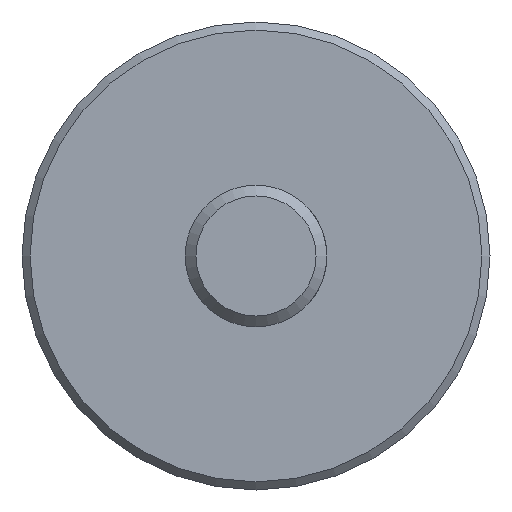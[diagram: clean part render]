
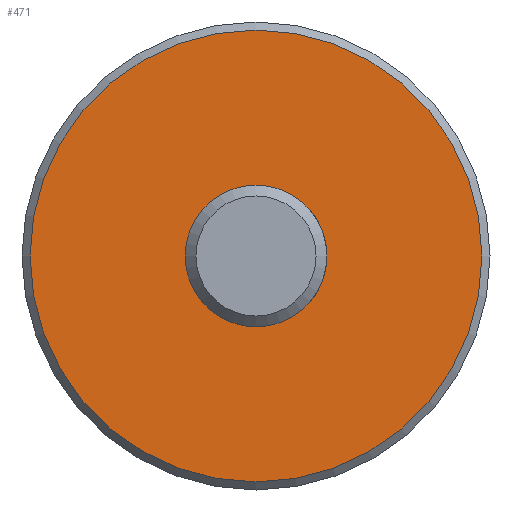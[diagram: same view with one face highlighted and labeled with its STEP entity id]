
A CAD part, front view. The second image highlights one B-rep face of the part: STEP entity #471.
In plain terms, the highlighted planar face has unit normal (0, -1, 0).
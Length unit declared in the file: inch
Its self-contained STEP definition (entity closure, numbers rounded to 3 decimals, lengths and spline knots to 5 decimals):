
#4 = FACE_OUTER_BOUND ( 'NONE', #532, .T. ) ;
#24 = DIRECTION ( 'NONE',  ( 0., 0., 1. ) ) ;
#52 = EDGE_CURVE ( 'NONE', #197, #197, #249, .T. ) ;
#62 = DIRECTION ( 'NONE',  ( 0., 1., 0. ) ) ;
#64 = CARTESIAN_POINT ( 'NONE',  ( 0., 3.28, 1.255 ) ) ;
#131 = AXIS2_PLACEMENT_3D ( 'NONE', #246, #165, #24 ) ;
#149 = FACE_BOUND ( 'NONE', #393, .T. ) ;
#154 = DIRECTION ( 'NONE',  ( 0., 1., 0. ) ) ;
#165 = DIRECTION ( 'NONE',  ( 0., 1., 0. ) ) ;
#197 = VERTEX_POINT ( 'NONE', #64 ) ;
#203 = AXIS2_PLACEMENT_3D ( 'NONE', #323, #62, #234 ) ;
#204 = CARTESIAN_POINT ( 'NONE',  ( 0., 3.28, 0. ) ) ;
#234 = DIRECTION ( 'NONE',  ( 0., 0., 1. ) ) ;
#246 = CARTESIAN_POINT ( 'NONE',  ( 0., 3.28, 0. ) ) ;
#249 = CIRCLE ( 'NONE', #131, 1.255 ) ;
#282 = ORIENTED_EDGE ( 'NONE', *, *, #52, .F. ) ;
#293 = CARTESIAN_POINT ( 'NONE',  ( 0., 3.28, 0.3937 ) ) ;
#323 = CARTESIAN_POINT ( 'NONE',  ( 0.3937, 3.28, 0. ) ) ;
#329 = PLANE ( 'NONE',  #203 ) ;
#332 = DIRECTION ( 'NONE',  ( 0., 0., 1. ) ) ;
#393 = EDGE_LOOP ( 'NONE', ( #565 ) ) ;
#471 = ADVANCED_FACE ( 'NONE', ( #4, #149 ), #329, .F. ) ;
#497 = CIRCLE ( 'NONE', #537, 0.3937 ) ;
#532 = EDGE_LOOP ( 'NONE', ( #282 ) ) ;
#537 = AXIS2_PLACEMENT_3D ( 'NONE', #204, #154, #332 ) ;
#548 = VERTEX_POINT ( 'NONE', #293 ) ;
#565 = ORIENTED_EDGE ( 'NONE', *, *, #567, .T. ) ;
#567 = EDGE_CURVE ( 'NONE', #548, #548, #497, .T. ) ;
